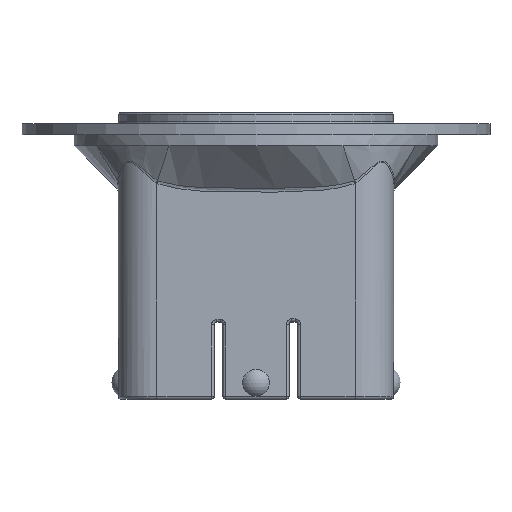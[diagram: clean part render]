
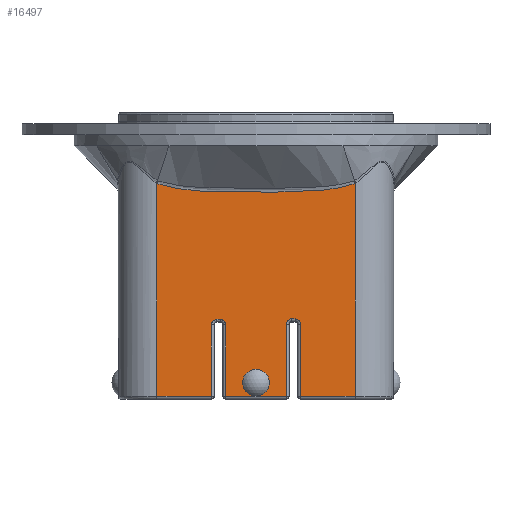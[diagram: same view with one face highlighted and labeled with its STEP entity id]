
A CAD part, left-side view. The second image highlights one B-rep face of the part: STEP entity #16497.
In plain terms, the highlighted planar face has unit normal (-1, 0, 0).
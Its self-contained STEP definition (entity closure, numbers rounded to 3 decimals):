
#251=FACE_BOUND('',#4267,.T.);
#932=LINE('',#46252,#1922);
#933=LINE('',#46254,#1923);
#934=LINE('',#46256,#1924);
#935=LINE('',#46260,#1925);
#936=LINE('',#46264,#1926);
#937=LINE('',#46266,#1927);
#938=LINE('',#46268,#1928);
#939=LINE('',#46272,#1929);
#940=LINE('',#46276,#1930);
#941=LINE('',#46278,#1931);
#942=LINE('',#46279,#1932);
#1922=VECTOR('',#19991,1.);
#1923=VECTOR('',#19992,1.);
#1924=VECTOR('',#19993,1.);
#1925=VECTOR('',#19996,1.);
#1926=VECTOR('',#19999,1.);
#1927=VECTOR('',#20000,1.);
#1928=VECTOR('',#20001,1.);
#1929=VECTOR('',#20004,1.);
#1930=VECTOR('',#20007,1.);
#1931=VECTOR('',#20008,1.);
#1932=VECTOR('',#20009,1.);
#2521=PLANE('',#17651);
#3177=FACE_OUTER_BOUND('',#4266,.T.);
#4266=EDGE_LOOP('',(#13284,#13285,#13286,#13287,#13288,#13289,#13290,#13291,
#13292,#13293,#13294,#13295,#13296,#13297,#13298,#13299));
#4267=EDGE_LOOP('',(#13300));
#5503=B_SPLINE_CURVE_WITH_KNOTS('',3,(#41263,#41264,#41265,#41266,#41267,
#41268,#41269,#41270,#41271,#41272,#41273,#41274,#41275,#41276,#41277,#41278,
#41279,#41280),.UNSPECIFIED.,.F.,.F.,(4,2,2,2,2,2,2,2,4),(-4.29,
-3.579,-2.872,-2.43,-2.154,
-1.878,-1.436,-0.835,-0.01),
 .UNSPECIFIED.);
#6081=CIRCLE('',#17652,1.);
#6082=CIRCLE('',#17653,1.);
#6083=CIRCLE('',#17654,1.);
#6084=CIRCLE('',#17655,1.);
#6085=CIRCLE('',#17656,2.437);
#7376=VERTEX_POINT('',#41260);
#7377=VERTEX_POINT('',#41262);
#7430=VERTEX_POINT('',#46251);
#7431=VERTEX_POINT('',#46253);
#7432=VERTEX_POINT('',#46255);
#7433=VERTEX_POINT('',#46257);
#7434=VERTEX_POINT('',#46259);
#7435=VERTEX_POINT('',#46261);
#7436=VERTEX_POINT('',#46263);
#7437=VERTEX_POINT('',#46265);
#7438=VERTEX_POINT('',#46267);
#7439=VERTEX_POINT('',#46269);
#7440=VERTEX_POINT('',#46271);
#7441=VERTEX_POINT('',#46273);
#7442=VERTEX_POINT('',#46275);
#7443=VERTEX_POINT('',#46277);
#7444=VERTEX_POINT('',#46280);
#9422=EDGE_CURVE('',#7376,#7377,#5503,.T.);
#9497=EDGE_CURVE('',#7430,#7376,#932,.T.);
#9498=EDGE_CURVE('',#7431,#7430,#933,.T.);
#9499=EDGE_CURVE('',#7432,#7431,#934,.T.);
#9500=EDGE_CURVE('',#7433,#7432,#6081,.T.);
#9501=EDGE_CURVE('',#7434,#7433,#935,.T.);
#9502=EDGE_CURVE('',#7435,#7434,#6082,.T.);
#9503=EDGE_CURVE('',#7436,#7435,#936,.T.);
#9504=EDGE_CURVE('',#7437,#7436,#937,.T.);
#9505=EDGE_CURVE('',#7438,#7437,#938,.T.);
#9506=EDGE_CURVE('',#7439,#7438,#6083,.T.);
#9507=EDGE_CURVE('',#7440,#7439,#939,.T.);
#9508=EDGE_CURVE('',#7441,#7440,#6084,.T.);
#9509=EDGE_CURVE('',#7442,#7441,#940,.T.);
#9510=EDGE_CURVE('',#7443,#7442,#941,.T.);
#9511=EDGE_CURVE('',#7377,#7443,#942,.T.);
#9512=EDGE_CURVE('',#7444,#7444,#6085,.T.);
#13284=ORIENTED_EDGE('',*,*,#9422,.F.);
#13285=ORIENTED_EDGE('',*,*,#9497,.F.);
#13286=ORIENTED_EDGE('',*,*,#9498,.F.);
#13287=ORIENTED_EDGE('',*,*,#9499,.F.);
#13288=ORIENTED_EDGE('',*,*,#9500,.F.);
#13289=ORIENTED_EDGE('',*,*,#9501,.F.);
#13290=ORIENTED_EDGE('',*,*,#9502,.F.);
#13291=ORIENTED_EDGE('',*,*,#9503,.F.);
#13292=ORIENTED_EDGE('',*,*,#9504,.F.);
#13293=ORIENTED_EDGE('',*,*,#9505,.F.);
#13294=ORIENTED_EDGE('',*,*,#9506,.F.);
#13295=ORIENTED_EDGE('',*,*,#9507,.F.);
#13296=ORIENTED_EDGE('',*,*,#9508,.F.);
#13297=ORIENTED_EDGE('',*,*,#9509,.F.);
#13298=ORIENTED_EDGE('',*,*,#9510,.F.);
#13299=ORIENTED_EDGE('',*,*,#9511,.F.);
#13300=ORIENTED_EDGE('',*,*,#9512,.T.);
#16497=ADVANCED_FACE('',(#3177,#251),#2521,.T.);
#17651=AXIS2_PLACEMENT_3D('',#46250,#19989,#19990);
#17652=AXIS2_PLACEMENT_3D('',#46258,#19994,#19995);
#17653=AXIS2_PLACEMENT_3D('',#46262,#19997,#19998);
#17654=AXIS2_PLACEMENT_3D('',#46270,#20002,#20003);
#17655=AXIS2_PLACEMENT_3D('',#46274,#20005,#20006);
#17656=AXIS2_PLACEMENT_3D('',#46281,#20010,#20011);
#19989=DIRECTION('center_axis',(-1.,0.,0.));
#19990=DIRECTION('ref_axis',(0.,1.,0.));
#19991=DIRECTION('',(0.,0.,1.));
#19992=DIRECTION('',(0.,1.,0.));
#19993=DIRECTION('',(0.,0.,-1.));
#19994=DIRECTION('center_axis',(-1.,0.,0.));
#19995=DIRECTION('ref_axis',(0.,0.707,0.707));
#19996=DIRECTION('',(0.,1.,0.));
#19997=DIRECTION('center_axis',(-1.,0.,0.));
#19998=DIRECTION('ref_axis',(0.,-0.707,0.707));
#19999=DIRECTION('',(0.,0.,1.));
#20000=DIRECTION('',(0.,1.,0.));
#20001=DIRECTION('',(0.,0.,-1.));
#20002=DIRECTION('center_axis',(-1.,0.,0.));
#20003=DIRECTION('ref_axis',(0.,0.707,0.707));
#20004=DIRECTION('',(0.,1.,0.));
#20005=DIRECTION('center_axis',(-1.,0.,0.));
#20006=DIRECTION('ref_axis',(0.,-0.707,0.707));
#20007=DIRECTION('',(0.,0.,1.));
#20008=DIRECTION('',(0.,1.,0.));
#20009=DIRECTION('',(0.,0.,-1.));
#20010=DIRECTION('center_axis',(1.,0.,0.));
#20011=DIRECTION('ref_axis',(0.,0.,-1.));
#41260=CARTESIAN_POINT('',(0.,43.,39.165));
#41262=CARTESIAN_POINT('',(0.,7.,39.165));
#41263=CARTESIAN_POINT('Ctrl Pts',(0.,43.,39.165));
#41264=CARTESIAN_POINT('Ctrl Pts',(0.,41.774,
38.743));
#41265=CARTESIAN_POINT('Ctrl Pts',(0.,40.446,
38.429));
#41266=CARTESIAN_POINT('Ctrl Pts',(0.,37.518,
37.965));
#41267=CARTESIAN_POINT('Ctrl Pts',(0.,35.921,
37.816));
#41268=CARTESIAN_POINT('Ctrl Pts',(0.,33.045,
37.67));
#41269=CARTESIAN_POINT('Ctrl Pts',(0.,31.872,
37.637));
#41270=CARTESIAN_POINT('Ctrl Pts',(0.,29.843,
37.605));
#41271=CARTESIAN_POINT('Ctrl Pts',(0.,29.033,
37.597));
#41272=CARTESIAN_POINT('Ctrl Pts',(0.,27.35,
37.588));
#41273=CARTESIAN_POINT('Ctrl Pts',(0.,26.478,
37.587));
#41274=CARTESIAN_POINT('Ctrl Pts',(0.,24.12,
37.585));
#41275=CARTESIAN_POINT('Ctrl Pts',(0.,22.623,
37.586));
#41276=CARTESIAN_POINT('Ctrl Pts',(0.,19.123,
37.612));
#41277=CARTESIAN_POINT('Ctrl Pts',(0.,17.103,
37.644));
#41278=CARTESIAN_POINT('Ctrl Pts',(0.,12.349,
37.94));
#41279=CARTESIAN_POINT('Ctrl Pts',(0.,9.6,
38.269));
#41280=CARTESIAN_POINT('Ctrl Pts',(0.,7.,
39.165));
#46250=CARTESIAN_POINT('Origin',(0.,25.,0.));
#46251=CARTESIAN_POINT('',(0.,43.,0.5));
#46252=CARTESIAN_POINT('',(0.,43.,0.));
#46253=CARTESIAN_POINT('',(0.,33.087,0.5));
#46254=CARTESIAN_POINT('',(0.,25.,0.5));
#46255=CARTESIAN_POINT('',(0.,33.087,13.5));
#46256=CARTESIAN_POINT('',(0.,33.087,3.5));
#46257=CARTESIAN_POINT('',(0.,32.087,14.5));
#46258=CARTESIAN_POINT('Origin',(0.,32.087,
13.5));
#46259=CARTESIAN_POINT('',(0.,31.5,14.5));
#46260=CARTESIAN_POINT('',(0.,28.397,14.5));
#46261=CARTESIAN_POINT('',(0.,30.5,13.5));
#46262=CARTESIAN_POINT('Origin',(0.,31.5,
13.5));
#46263=CARTESIAN_POINT('',(0.,30.5,0.5));
#46264=CARTESIAN_POINT('',(0.,30.5,3.5));
#46265=CARTESIAN_POINT('',(0.,19.5,0.5));
#46266=CARTESIAN_POINT('',(0.,25.,0.5));
#46267=CARTESIAN_POINT('',(0.,19.5,13.604));
#46268=CARTESIAN_POINT('',(0.,19.5,3.5));
#46269=CARTESIAN_POINT('',(0.,18.5,14.604));
#46270=CARTESIAN_POINT('Origin',(0.,18.5,
13.604));
#46271=CARTESIAN_POINT('',(0.,17.912,14.604));
#46272=CARTESIAN_POINT('',(0.,21.603,14.604));
#46273=CARTESIAN_POINT('',(0.,16.912,13.604));
#46274=CARTESIAN_POINT('Origin',(0.,17.912,
13.604));
#46275=CARTESIAN_POINT('',(0.,16.912,0.5));
#46276=CARTESIAN_POINT('',(0.,16.912,3.5));
#46277=CARTESIAN_POINT('',(0.,7.,0.5));
#46278=CARTESIAN_POINT('',(0.,25.,0.5));
#46279=CARTESIAN_POINT('',(0.,7.,0.));
#46280=CARTESIAN_POINT('',(0.,25.,5.437));
#46281=CARTESIAN_POINT('Origin',(0.,25.,
3.));
